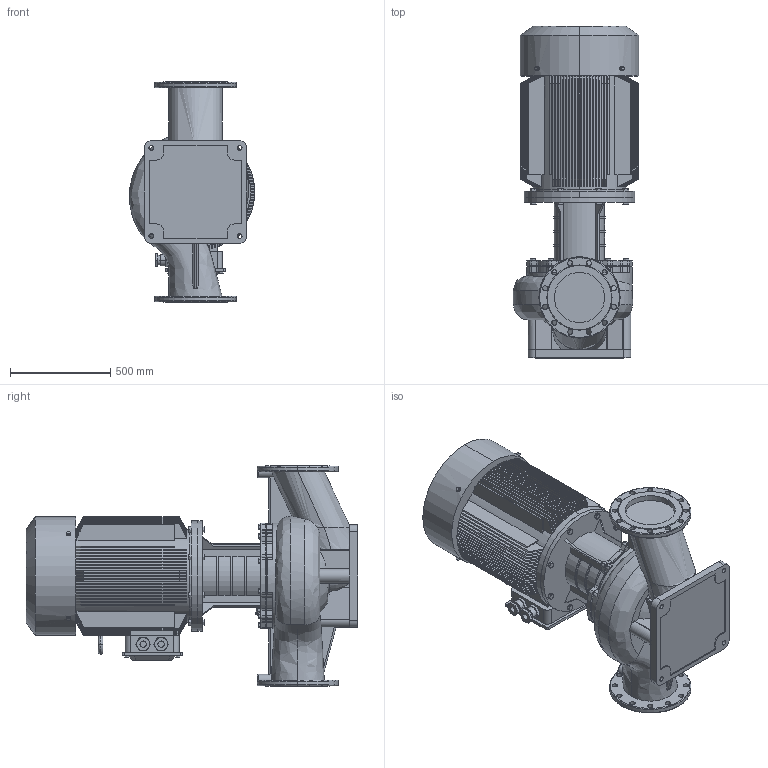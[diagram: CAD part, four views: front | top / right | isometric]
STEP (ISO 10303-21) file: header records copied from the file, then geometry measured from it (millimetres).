
FILE_DESCRIPTION(/* description */ (''),/* implementation_level */ '2;1');
FILE_NAME(/* name */ 'TD250-26 32 36-4安装尺寸图.stp',/* time_stamp */ '2026-09-07T17:06:25+08:00',/* author */ (''),/* organization */ (''),/* preprocessor_version */ 'ST-DEVELOPER v16.7',/* originating_system */ 'SIEMENS PLM Software NX 1847',/* authorisation */ '');
FILE_SCHEMA (('AP203_CONFIGURATION_CONTROLLED_3D_DESIGN_OF_MECHANICAL_PARTS_AND_ASSEMBLIES_MIM_LF { 1 0 10303 403 2 1 2}'));
Products named in the file (1): Admi55F8EAC4z5rn
Bounding box: 624.74 x 1654 x 1100 mm (x, y, z)
Volume: 349341037.7 mm3; surface area: 11199617.7 mm2
Topology: 1 solids, 12 shells, 1866 faces, 4603 edges, 2872 vertices
Faces by surface type: plane 738, cylinder 509, cone 487, torus 80, bspline 28, sphere 24
Full cylindrical faces by diameter (mm): 8 x1, 10 x2, 12.9 x1, 15.682 x10, 17.623 x16, 18 x10, 22.49 x10, 25.34 x8, 380 x1, 400 x1, 550 x1
Entity records: 63045 total; most frequent: CARTESIAN_POINT 20329, ORIENTED_EDGE 8886, DIRECTION 8734, EDGE_CURVE 4443, AXIS2_PLACEMENT_3D 3531, VERTEX_POINT 2816, EDGE_LOOP 2177, ADVANCED_FACE 1866
